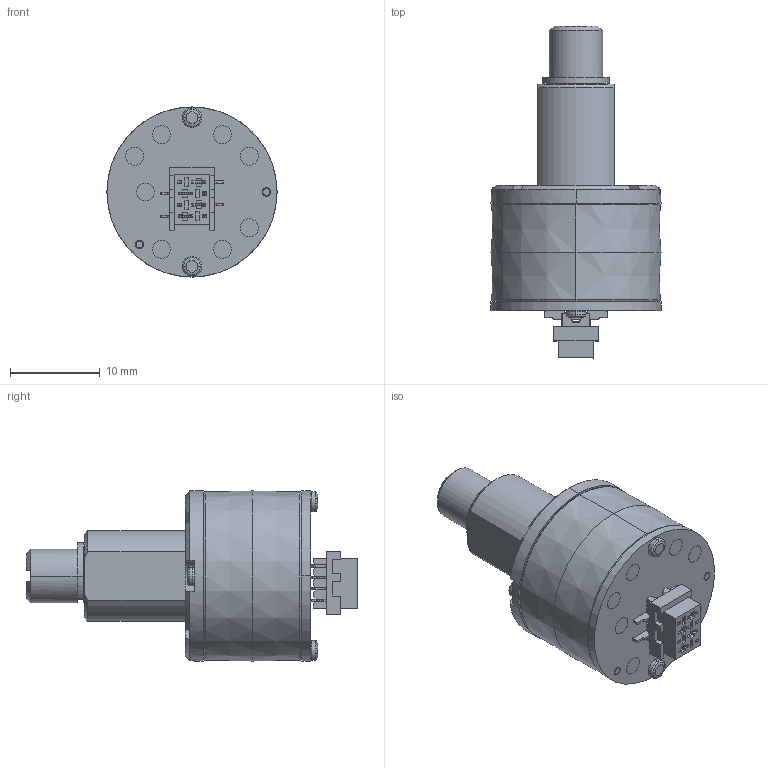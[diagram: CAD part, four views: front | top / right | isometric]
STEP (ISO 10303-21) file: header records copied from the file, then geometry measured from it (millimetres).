
FILE_DESCRIPTION (( 'STEP AP203' ), '1' );
FILE_NAME ('1120-1501-0005-01_defeature.STEP', '2024-10-17T08:38:54', ( '' ), ( '' ), 'SwSTEP 2.0', 'SolidWorks 2024', '' );
FILE_SCHEMA (( 'CONFIG_CONTROL_DESIGN' ));
Length unit declared in the file: millimetre
Products named in the file (1): 1120-1501-0005-01_defeature
Bounding box: 19 x 37.08 x 19 mm (x, y, z)
Surface area: 2414.2 mm2 (no closed solid volume)
Topology: 0 solids, 6 shells, 526 faces, 1514 edges, 971 vertices
Faces by surface type: plane 350, cylinder 128, torus 24, cone 16, sphere 8
Entity records: 17214 total; most frequent: CARTESIAN_POINT 3090, ORIENTED_EDGE 2936, DIRECTION 2922, EDGE_CURVE 1514, VECTOR 1108, LINE 1108, VERTEX_POINT 971, AXIS2_PLACEMENT_3D 907
